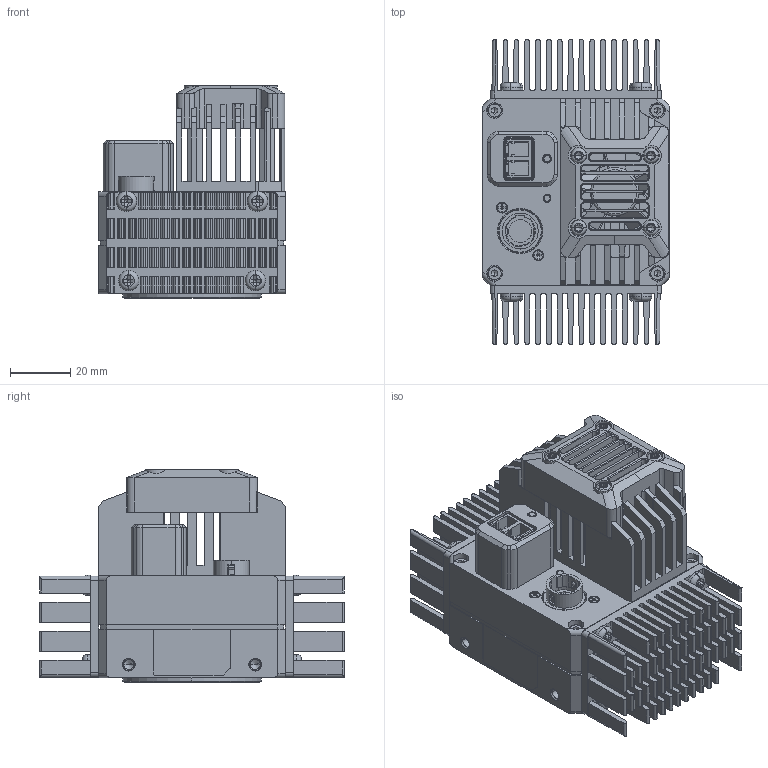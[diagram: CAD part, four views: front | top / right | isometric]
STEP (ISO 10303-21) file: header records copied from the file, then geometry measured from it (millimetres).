
FILE_DESCRIPTION((''),'2;1');
FILE_NAME('MV-CL042-91FC','2023-12-06T13:49:43',('zhangfeixiang8'),(''),'CREO PARAMETRIC BY PTC INC, 2020044','CREO PARAMETRIC BY PTC INC, 2020044','');
FILE_SCHEMA(('CONFIG_CONTROL_DESIGN'));
Products named in the file (1): MV-CL042-91FC
Bounding box: 62 x 101.2 x 70.68 mm (x, y, z)
Volume: 167168.9 mm3; surface area: 99061.8 mm2
Topology: 2 solids, 115 shells, 3840 faces, 10498 edges, 6870 vertices
Faces by surface type: plane 2074, cylinder 1343, cone 264, torus 97, bspline 32, extrusion 29, sphere 1
Entity records: 140445 total; most frequent: CARTESIAN_POINT 42333, ORIENTED_EDGE 20618, DIRECTION 20207, EDGE_CURVE 10443, AXIS2_PLACEMENT_3D 6943, VERTEX_POINT 6870, VECTOR 6321, LINE 6292
